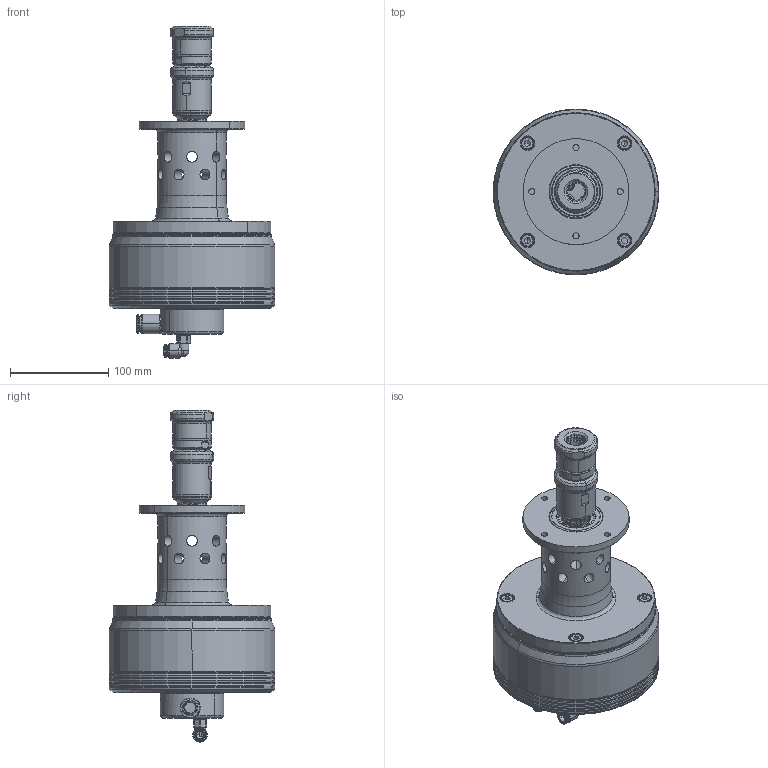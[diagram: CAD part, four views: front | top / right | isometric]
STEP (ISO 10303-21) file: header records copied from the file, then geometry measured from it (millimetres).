
FILE_DESCRIPTION (( 'STEP AP214' ), '1' );
FILE_NAME ('Rührwerksantrieb eco-Seal 3600 INOX mit Schnellwechselsystem_6615.STEP', '2024-03-26T09:01:36', ( '' ), ( '' ), 'SwSTEP 2.0', 'SolidWorks 2022', '' );
FILE_SCHEMA (( 'AUTOMOTIVE_DESIGN' ));
Length unit declared in the file: millimetre
Products named in the file (1): Rührwerksantrieb eco-Seal 3600 INOX mit Schnellwechselsystem_6615
Bounding box: 169 x 169 x 338.25 mm (x, y, z)
Surface area: 167584 mm2 (no closed solid volume)
Topology: 0 solids, 34 shells, 469 faces, 1252 edges, 798 vertices
Faces by surface type: cylinder 148, torus 118, cone 97, plane 91, bspline 14, sphere 1
Entity records: 26357 total; most frequent: CARTESIAN_POINT 9753, DIRECTION 2501, ORIENTED_EDGE 2139, EDGE_CURVE 1244, AXIS2_PLACEMENT_3D 1056, VERTEX_POINT 798, CIRCLE 600, EDGE_LOOP 541
